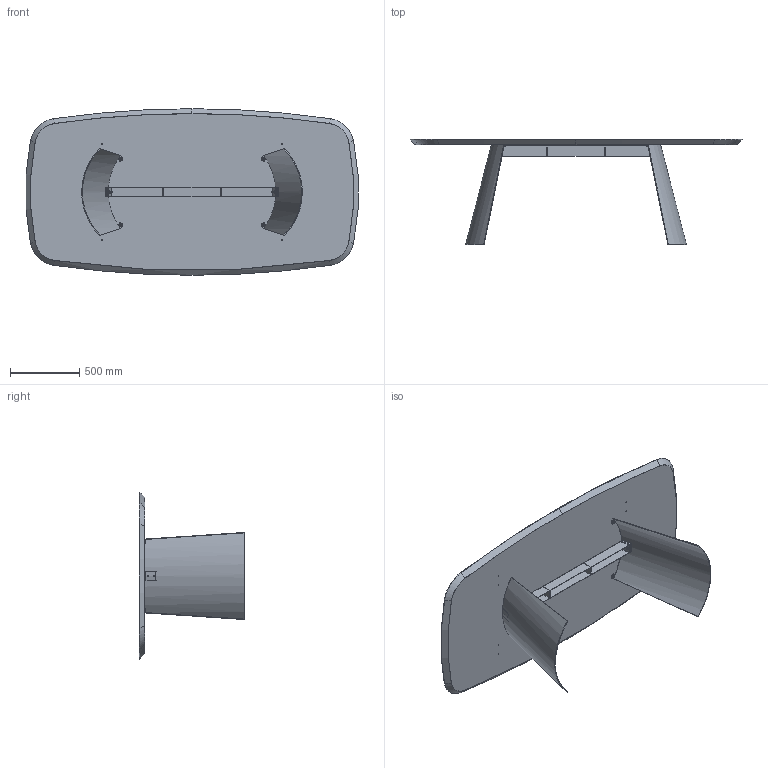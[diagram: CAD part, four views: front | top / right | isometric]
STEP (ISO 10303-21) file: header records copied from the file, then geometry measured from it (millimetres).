
FILE_DESCRIPTION (( 'STEP AP203' ), '1' );
FILE_NAME ('DN43W.STEP', '2024-08-07T15:08:14', ( '' ), ( '' ), 'SwSTEP 2.0', 'SolidWorks 2022', '' );
FILE_SCHEMA (( 'CONFIG_CONTROL_DESIGN' ));
Length unit declared in the file: millimetre
Products named in the file (14): SDNB300000-02-GAMBA X TRASP; DNB300000_02-02-RISCONTRO STANGONE CENTRALE; M8xXXmm_M8x20mm; nut_M8_M8; rondella M8_8X16; GRANO M8X35_barra; DNB300000_01-02-GAMBA DORIAN; DNBX00000-01-DORIAN TRAVERSO LXXXX PER TAVOLO LX00_L.1250; W4XCMXX-00-Piani Sagomati legno_2400 x 1200; DNB400000-02-ASSIEME STRUTTURA COMPLETA_L.1250; DN43W; DNB300000_03-02-PIASTRINA; feltro Ø12x3; rondella M8X24
Assembly tree (33 placements, depth 4):
  DN43W
    W4XCMXX-00-Piani Sagomati legno_2400 x 1200
    DNB400000-02-ASSIEME STRUTTURA COMPLETA_L.1250
      SDNB300000-02-GAMBA X TRASP  x2
        DNB300000_01-02-GAMBA DORIAN
        DNB300000_02-02-RISCONTRO STANGONE CENTRALE
        DNB300000_03-02-PIASTRINA
      DNBX00000-01-DORIAN TRAVERSO LXXXX PER TAVOLO LX00_L.1250
    GRANO M8X35_barra  x4
    rondella M8_8X16  x4
    nut_M8_M8  x4
    M8xXXmm_M8x20mm  x4
    rondella M8X24  x4
    feltro Ø12x3  x4
Bounding box: 2391.9 x 758 x 1200 mm (x, y, z)
Volume: 102692734.5 mm3; surface area: 7963510.8 mm2
Topology: 38 solids, 38 shells, 673 faces, 1564 edges, 948 vertices
Faces by surface type: plane 256, cylinder 179, cone 131, torus 89, bspline 18
Entity records: 12678 total; most frequent: CARTESIAN_POINT 2492, DIRECTION 1770, ORIENTED_EDGE 1636, EDGE_CURVE 818, AXIS2_PLACEMENT_3D 656, VERTEX_POINT 520, LINE 458, VECTOR 458
